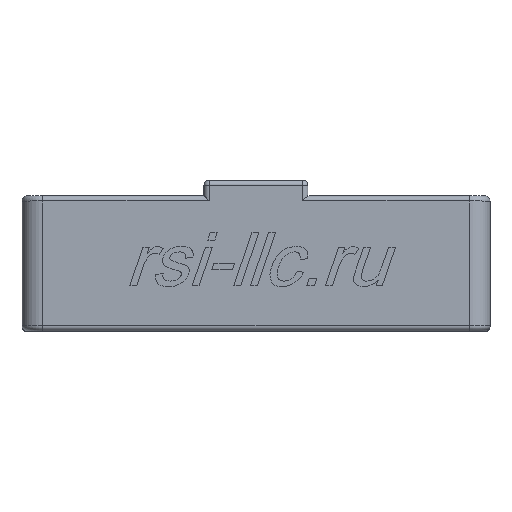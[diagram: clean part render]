
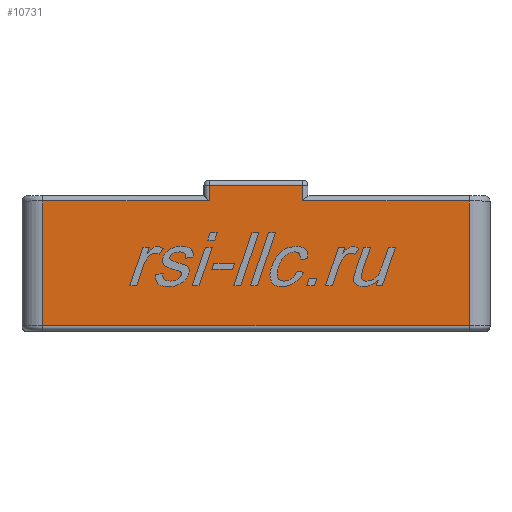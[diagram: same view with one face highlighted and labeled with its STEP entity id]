
A CAD part, top view. The second image highlights one B-rep face of the part: STEP entity #10731.
In plain terms, the highlighted planar face has unit normal (0, 0, 1).
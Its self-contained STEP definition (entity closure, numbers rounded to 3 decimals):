
#135 = DIRECTION ( 'NONE',  ( 0., 0., -1. ) ) ;
#238 = AXIS2_PLACEMENT_3D ( 'NONE', #7853, #135, #3590 ) ;
#379 = DIRECTION ( 'NONE',  ( 0., -1., 0. ) ) ;
#475 = CARTESIAN_POINT ( 'NONE',  ( -4.5, 7.5, 22.5 ) ) ;
#757 = CARTESIAN_POINT ( 'NONE',  ( -4.5, 6., 22.5 ) ) ;
#1174 = VERTEX_POINT ( 'NONE', #475 ) ;
#1493 = LINE ( 'NONE', #4923, #2753 ) ;
#1504 = ORIENTED_EDGE ( 'NONE', *, *, #9893, .T. ) ;
#1530 = ORIENTED_EDGE ( 'NONE', *, *, #4416, .T. ) ;
#1602 = CARTESIAN_POINT ( 'NONE',  ( -20.5, 6., 22.5 ) ) ;
#2348 = LINE ( 'NONE', #5771, #8542 ) ;
#2375 = ORIENTED_EDGE ( 'NONE', *, *, #4167, .T. ) ;
#2495 = CARTESIAN_POINT ( 'NONE',  ( 4.5, 8., 22.5 ) ) ;
#2567 = DIRECTION ( 'NONE',  ( 0., -1., 0. ) ) ;
#2590 = CARTESIAN_POINT ( 'NONE',  ( 4.5, 7.5, 22.5 ) ) ;
#2753 = VECTOR ( 'NONE', #8354, 1000. ) ;
#2819 = LINE ( 'NONE', #6228, #3710 ) ;
#2829 = VERTEX_POINT ( 'NONE', #5885 ) ;
#2898 = DIRECTION ( 'NONE',  ( -1., 0., 0. ) ) ;
#3270 = VERTEX_POINT ( 'NONE', #2590 ) ;
#3411 = ORIENTED_EDGE ( 'NONE', *, *, #10958, .T. ) ;
#3425 = DIRECTION ( 'NONE',  ( -1., 0., 0. ) ) ;
#3550 = EDGE_CURVE ( 'NONE', #9590, #2829, #1493, .T. ) ;
#3590 = DIRECTION ( 'NONE',  ( -1., 0., 0. ) ) ;
#3667 = EDGE_CURVE ( 'NONE', #9433, #8158, #6830, .T. ) ;
#3710 = VECTOR ( 'NONE', #9682, 1000. ) ;
#3745 = LINE ( 'NONE', #8120, #4949 ) ;
#4167 = EDGE_CURVE ( 'NONE', #8158, #2829, #2819, .T. ) ;
#4416 = EDGE_CURVE ( 'NONE', #9590, #7761, #7696, .T. ) ;
#4419 = VECTOR ( 'NONE', #2898, 1000. ) ;
#4425 = VECTOR ( 'NONE', #3425, 1000. ) ;
#4871 = EDGE_CURVE ( 'NONE', #3270, #7761, #10209, .T. ) ;
#4923 = CARTESIAN_POINT ( 'NONE',  ( 20.5, 6.5, 22.5 ) ) ;
#4949 = VECTOR ( 'NONE', #379, 1000. ) ;
#5678 = VERTEX_POINT ( 'NONE', #757 ) ;
#5771 = CARTESIAN_POINT ( 'NONE',  ( -20.5, 7.5, 22.5 ) ) ;
#5873 = CARTESIAN_POINT ( 'NONE',  ( 4.5, 6., 22.5 ) ) ;
#5876 = VECTOR ( 'NONE', #5922, 1000. ) ;
#5885 = CARTESIAN_POINT ( 'NONE',  ( 20.5, -6., 22.5 ) ) ;
#5922 = DIRECTION ( 'NONE',  ( 0., -1., 0. ) ) ;
#6049 = FACE_OUTER_BOUND ( 'NONE', #10826, .T. ) ;
#6228 = CARTESIAN_POINT ( 'NONE',  ( -20.5, -6., 22.5 ) ) ;
#6830 = LINE ( 'NONE', #10280, #8471 ) ;
#6981 = ORIENTED_EDGE ( 'NONE', *, *, #9173, .T. ) ;
#7150 = LINE ( 'NONE', #10602, #4419 ) ;
#7696 = LINE ( 'NONE', #11156, #4425 ) ;
#7761 = VERTEX_POINT ( 'NONE', #5873 ) ;
#7853 = CARTESIAN_POINT ( 'NONE',  ( -20.5, 6.5, 22.5 ) ) ;
#7891 = CARTESIAN_POINT ( 'NONE',  ( 20.5, 6., 22.5 ) ) ;
#8094 = ORIENTED_EDGE ( 'NONE', *, *, #4871, .F. ) ;
#8120 = CARTESIAN_POINT ( 'NONE',  ( -4.5, 8., 22.5 ) ) ;
#8158 = VERTEX_POINT ( 'NONE', #10684 ) ;
#8219 = ORIENTED_EDGE ( 'NONE', *, *, #3550, .F. ) ;
#8354 = DIRECTION ( 'NONE',  ( 0., -1., 0. ) ) ;
#8471 = VECTOR ( 'NONE', #2567, 1000. ) ;
#8542 = VECTOR ( 'NONE', #9219, 1000. ) ;
#9173 = EDGE_CURVE ( 'NONE', #3270, #1174, #2348, .T. ) ;
#9219 = DIRECTION ( 'NONE',  ( -1., 0., 0. ) ) ;
#9433 = VERTEX_POINT ( 'NONE', #1602 ) ;
#9497 = PLANE ( 'NONE',  #238 ) ;
#9590 = VERTEX_POINT ( 'NONE', #7891 ) ;
#9682 = DIRECTION ( 'NONE',  ( 1., 0., 0. ) ) ;
#9893 = EDGE_CURVE ( 'NONE', #5678, #9433, #7150, .T. ) ;
#10209 = LINE ( 'NONE', #2495, #5876 ) ;
#10280 = CARTESIAN_POINT ( 'NONE',  ( -20.5, 6.5, 22.5 ) ) ;
#10602 = CARTESIAN_POINT ( 'NONE',  ( -20.5, 6., 22.5 ) ) ;
#10684 = CARTESIAN_POINT ( 'NONE',  ( -20.5, -6., 22.5 ) ) ;
#10731 = ADVANCED_FACE ( 'NONE', ( #6049 ), #9497, .F. ) ;
#10826 = EDGE_LOOP ( 'NONE', ( #8094, #6981, #3411, #1504, #10960, #2375, #8219, #1530 ) ) ;
#10958 = EDGE_CURVE ( 'NONE', #1174, #5678, #3745, .T. ) ;
#10960 = ORIENTED_EDGE ( 'NONE', *, *, #3667, .T. ) ;
#11156 = CARTESIAN_POINT ( 'NONE',  ( 4.5, 6., 22.5 ) ) ;
